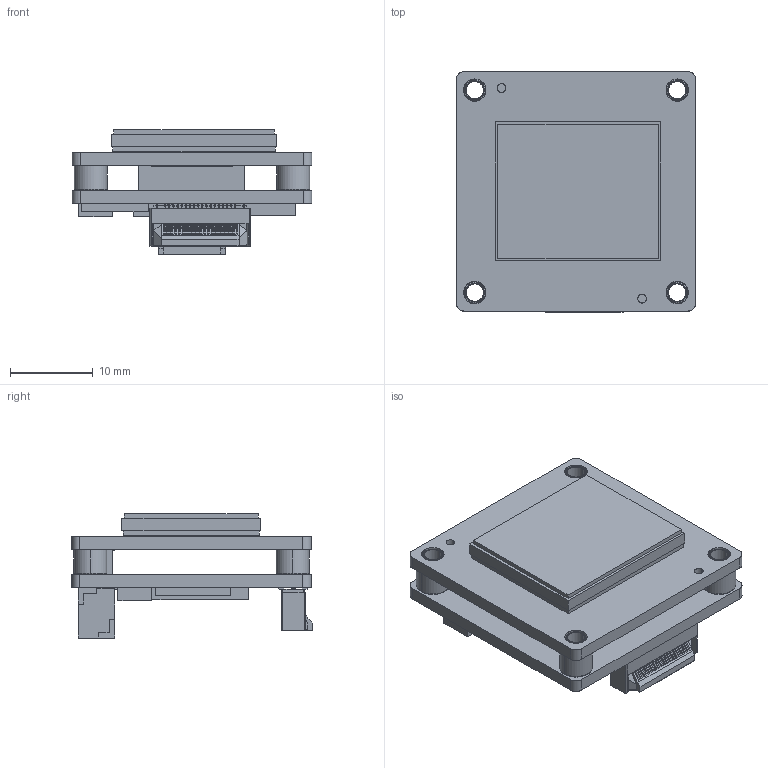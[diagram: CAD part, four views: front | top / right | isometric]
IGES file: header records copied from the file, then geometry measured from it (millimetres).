
Start section: SolidWorks IGES file using analytic representation for surfaces
Global section: file name: F:\mechanical\Documentation\BFS-BD\extracted files\BFS_BD-051-R0 steps\BFS-U3-200S6M(C)-BD2.IGS; native system: SolidWorks 2017; preprocessor: SolidWorks 2017; author: YXiang; date: 180928.143044; units: millimetre
Bounding box: 29 x 29.14 x 15.02 mm (x, y, z)
Surface area: 7544.8 mm2 (no closed solid volume)
Topology: 0 solids, 0 shells, 1057 faces, 7660 edges, 7655 vertices
Faces by surface type: bspline 835, revolution 222
